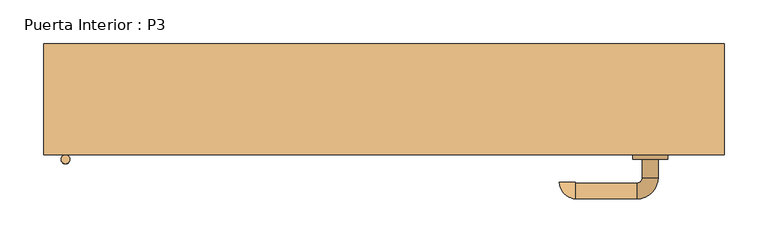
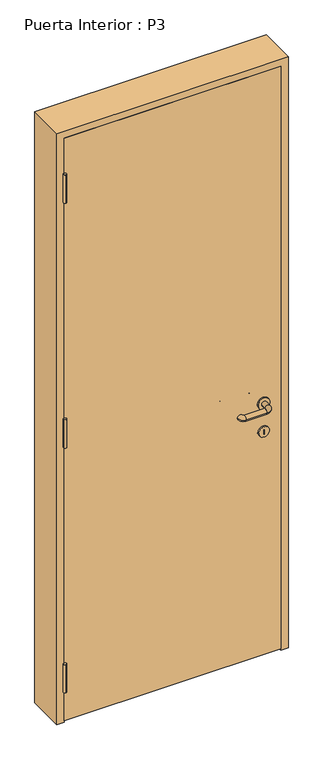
"""IFC4 building model written with IfcOpenShell, lengths in millimetres: door geometry, Puerta Interior : P3."""

from ifc_helpers import new_model, si_unit, point, frame, frame_2d, origin, place, context, project, spatial, polyline, circle_curve, ellipse_curve, trimmed, segment, composite_curve, outline, extrude, faceted_brep, source, transform, mapped, element, save
from ifc_brep_helpers import plane_surface, cylinder_surface, revolved_surface, advanced_brep


def puerta_interior_p3_a5072a38(model_context):
    return source(origin(), model_context, "Body", "SolidModel", [
        extrude(outline(composite_curve([segment(trimmed(circle_curve(frame_2d((900.0, 305.0)), 20.0), [point((900.0, 325.0))], [point((900.0, 285.0))], False, "CARTESIAN"), True, "CONTINUOUS"), segment(trimmed(circle_curve(frame_2d((900.0, 305.0)), 20.0), [point((900.0, 285.0))], [point((900.0, 325.0))], False, "CARTESIAN"), True, "CONTINUOUS")], self_intersect=False)), frame((0.0, -23.75, 0.0), z_axis=(0.0, 1.0, 0.0), x_axis=(0.0, 0.0, 1.0)), (0.0, 0.0, 1.0), 5.0),
        advanced_brep(
        [(296.0, -18.75, 900.0), (314.0, -18.75, 900.0), (314.0, 2.25, 900.0), (296.0, 2.25, 900.0), (290.0, 26.25, 900.0), (290.0, 8.25, 900.0), (219.797959, 26.25, 900.0), (219.797959, 8.25, 900.0), (218.797959, 7.25, 900.0), (200.797959, 7.25, 900.0)],
        [
            (0, 1, circle_curve(frame((305.0, -18.75, 900.0), z_axis=(0.0, -1.0, 0.0), x_axis=(1.0, 0.0, 0.0)), 9.0)),
            (1, 0, circle_curve(frame((305.0, -18.75, 900.0), z_axis=(0.0, -1.0, 0.0), x_axis=(1.0, 0.0, 0.0)), 9.0)),
            (1, 2),
            (2, 3, circle_curve(frame((305.0, 2.25, 900.0), z_axis=(0.0, -1.0, 0.0), x_axis=(1.0, 0.0, 0.0)), 9.0)),
            (3, 0),
            (3, 2, circle_curve(frame((305.0, 2.25, 900.0), z_axis=(0.0, -1.0, 0.0), x_axis=(1.0, 0.0, 0.0)), 9.0)),
            (4, 5, circle_curve(frame((290.0, 17.25, 900.0), z_axis=(1.0, 0.0, 0.0), x_axis=(0.0, 1.0, 0.0)), 9.0)),
            (5, 3, circle_curve(frame((290.0, 2.25, 900.0), z_axis=(0.0, 0.0, -1.0), x_axis=(1.0, 0.0, 0.0)), 6.0)),
            (2, 4, circle_curve(frame((290.0, 2.25, 900.0), z_axis=(0.0, 0.0, 1.0), x_axis=(1.0, 0.0, 0.0)), 24.0)),
            (5, 4, circle_curve(frame((290.0, 17.25, 900.0), z_axis=(1.0, 0.0, 0.0), x_axis=(0.0, 1.0, 0.0)), 9.0)),
            (4, 6),
            (6, 7, circle_curve(frame((219.797959, 17.25, 900.0), z_axis=(1.0, 0.0, 0.0), x_axis=(0.0, 1.0, 0.0)), 9.0)),
            (7, 5),
            (7, 6, circle_curve(frame((219.797959, 17.25, 900.0), z_axis=(1.0, 0.0, 0.0), x_axis=(0.0, 1.0, 0.0)), 9.0)),
            (8, 9, circle_curve(frame((209.797959, 7.25, 900.0), z_axis=(0.0, -1.0, 0.0), x_axis=(-1.0, 0.0, 0.0)), 9.0)),
            (9, 8, circle_curve(frame((209.797959, 7.25, 900.0), z_axis=(0.0, -1.0, 0.0), x_axis=(-1.0, 0.0, 0.0)), 9.0)),
            (8, 7, circle_curve(frame((219.797959, 7.25, 900.0), z_axis=(0.0, 0.0, -1.0), x_axis=(0.0, 1.0, 0.0)), 1.0)),
            (6, 9, circle_curve(frame((219.797959, 7.25, 900.0), z_axis=(0.0, 0.0, 1.0), x_axis=(0.0, 1.0, 0.0)), 19.0)),
        ],
        [
            plane_surface(frame((305.0, -18.75, 900.0), z_axis=(0.0, -1.0, 0.0), x_axis=(0.0, 0.0, 1.0))),
            cylinder_surface(frame((305.0, -18.75, 900.0), z_axis=(0.0, -1.0, 0.0), x_axis=(1.0, 0.0, 0.0)), 9.0),
            revolved_surface(trimmed(ellipse_curve(frame((305.0, 2.25, 900.0), z_axis=(0.0, 1.0, 0.0), x_axis=(1.0, 0.0, 0.0)), 9.0, 9.0), [point((296.0, 2.25, 900.0))], [point((314.0, 2.25, 900.0))], True, "CARTESIAN"), (290.0, 2.25, 900.0), (0.0, 0.0, -1.0)),
            revolved_surface(trimmed(ellipse_curve(frame((305.0, 2.25, 900.0), z_axis=(0.0, 1.0, 0.0), x_axis=(1.0, 0.0, 0.0)), 9.0, 9.0), [point((314.0, 2.25, 900.0))], [point((296.0, 2.25, 900.0))], True, "CARTESIAN"), (290.0, 2.25, 900.0), (0.0, 0.0, -1.0)),
            cylinder_surface(frame((290.0, 17.25, 900.0), z_axis=(1.0, 0.0, 0.0), x_axis=(0.0, 1.0, 0.0)), 9.0),
            plane_surface(frame((209.797959, 7.25, 900.0), z_axis=(0.0, -1.0, 0.0), x_axis=(0.0, 0.0, 1.0))),
            revolved_surface(trimmed(ellipse_curve(frame((219.797959, 17.25, 900.0), z_axis=(-1.0, 0.0, 0.0), x_axis=(0.0, 1.0, 0.0)), 9.0, 9.0), [point((219.797959, 8.25, 900.0))], [point((219.797959, 26.25, 900.0))], True, "CARTESIAN"), (219.797959, 7.25, 900.0), (0.0, 0.0, -1.0)),
            revolved_surface(trimmed(ellipse_curve(frame((219.797959, 17.25, 900.0), z_axis=(-1.0, 0.0, 0.0), x_axis=(0.0, 1.0, 0.0)), 9.0, 9.0), [point((219.797959, 26.25, 900.0))], [point((219.797959, 8.25, 900.0))], True, "CARTESIAN"), (219.797959, 7.25, 900.0), (0.0, 0.0, -1.0)),
        ],
        [
            (0, [[1, 2]]),
            (1, [[3, 4, 5, -2]]),
            (1, [[-5, 6, -3, -1]]),
            (2, [[7, 8, -4, 9]]),
            (3, [[10, -9, -6, -8]]),
            (4, [[11, 12, 13, -7]]),
            (4, [[-13, 14, -11, -10]]),
            (5, [[15, 16]]),
            (6, [[-15, 17, -12, 18]]),
            (7, [[-16, -18, -14, -17]]),
        ],
    ),
        extrude(outline(composite_curve([segment(trimmed(circle_curve(frame_2d((900.0, 305.0)), 20.0), [point((900.0, 325.0))], [point((900.0, 285.0))], False, "CARTESIAN"), True, "CONTINUOUS"), segment(trimmed(circle_curve(frame_2d((900.0, 305.0)), 20.0), [point((900.0, 285.0))], [point((900.0, 325.0))], False, "CARTESIAN"), True, "CONTINUOUS")], self_intersect=False)), frame((0.0, -68.75, 0.0), z_axis=(0.0, 1.0, 0.0), x_axis=(0.0, 0.0, 1.0)), (0.0, 0.0, 1.0), 5.0),
        advanced_brep(
        [(296.0, -68.75, 900.0), (314.0, -68.75, 900.0), (296.0, -89.75, 900.0), (314.0, -89.75, 900.0), (290.0, -113.75, 900.0), (290.0, -95.75, 900.0), (219.797959, -95.75, 900.0), (219.797959, -113.75, 900.0), (218.797959, -94.75, 900.0), (200.797959, -94.75, 900.0)],
        [
            (0, 1, circle_curve(frame((305.0, -68.75, 900.0), z_axis=(0.0, 1.0, 0.0), x_axis=(1.0, 0.0, 0.0)), 9.0)),
            (1, 0, circle_curve(frame((305.0, -68.75, 900.0), z_axis=(0.0, 1.0, 0.0), x_axis=(1.0, 0.0, 0.0)), 9.0)),
            (0, 2),
            (2, 3, circle_curve(frame((305.0, -89.75, 900.0), z_axis=(0.0, 1.0, 0.0), x_axis=(1.0, 0.0, 0.0)), 9.0)),
            (3, 1),
            (3, 2, circle_curve(frame((305.0, -89.75, 900.0), z_axis=(0.0, 1.0, 0.0), x_axis=(1.0, 0.0, 0.0)), 9.0)),
            (4, 3, circle_curve(frame((290.0, -89.75, 900.0), z_axis=(0.0, 0.0, 1.0), x_axis=(1.0, 0.0, 0.0)), 24.0)),
            (2, 5, circle_curve(frame((290.0, -89.75, 900.0), z_axis=(0.0, 0.0, -1.0), x_axis=(1.0, 0.0, 0.0)), 6.0)),
            (5, 4, circle_curve(frame((290.0, -104.75, 900.0), z_axis=(1.0, 0.0, 0.0), x_axis=(0.0, -1.0, 0.0)), 9.0)),
            (4, 5, circle_curve(frame((290.0, -104.75, 900.0), z_axis=(1.0, 0.0, 0.0), x_axis=(0.0, -1.0, 0.0)), 9.0)),
            (5, 6),
            (6, 7, circle_curve(frame((219.797959, -104.75, 900.0), z_axis=(1.0, 0.0, 0.0), x_axis=(0.0, -1.0, 0.0)), 9.0)),
            (7, 4),
            (7, 6, circle_curve(frame((219.797959, -104.75, 900.0), z_axis=(1.0, 0.0, 0.0), x_axis=(0.0, -1.0, 0.0)), 9.0)),
            (8, 9, circle_curve(frame((209.797959, -94.75, 900.0), z_axis=(0.0, 1.0, 0.0), x_axis=(-1.0, 0.0, 0.0)), 9.0)),
            (9, 8, circle_curve(frame((209.797959, -94.75, 900.0), z_axis=(0.0, 1.0, 0.0), x_axis=(-1.0, 0.0, 0.0)), 9.0)),
            (9, 7, circle_curve(frame((219.797959, -94.75, 900.0), z_axis=(0.0, 0.0, 1.0), x_axis=(0.0, -1.0, 0.0)), 19.0)),
            (6, 8, circle_curve(frame((219.797959, -94.75, 900.0), z_axis=(0.0, 0.0, -1.0), x_axis=(0.0, -1.0, 0.0)), 1.0)),
        ],
        [
            plane_surface(frame((305.0, -68.75, 900.0), z_axis=(0.0, 1.0, 0.0), x_axis=(0.0, 0.0, 1.0))),
            cylinder_surface(frame((305.0, -68.75, 900.0), z_axis=(0.0, 1.0, 0.0), x_axis=(1.0, 0.0, 0.0)), 9.0),
            revolved_surface(trimmed(ellipse_curve(frame((305.0, -89.75, 900.0), z_axis=(0.0, 1.0, 0.0), x_axis=(1.0, 0.0, 0.0)), 9.0, 9.0), [point((296.0, -89.75, 900.0))], [point((314.0, -89.75, 900.0))], True, "CARTESIAN"), (290.0, -89.75, 900.0), (0.0, 0.0, -1.0)),
            revolved_surface(trimmed(ellipse_curve(frame((305.0, -89.75, 900.0), z_axis=(0.0, 1.0, 0.0), x_axis=(1.0, 0.0, 0.0)), 9.0, 9.0), [point((314.0, -89.75, 900.0))], [point((296.0, -89.75, 900.0))], True, "CARTESIAN"), (290.0, -89.75, 900.0), (0.0, 0.0, -1.0)),
            cylinder_surface(frame((290.0, -104.75, 900.0), z_axis=(1.0, 0.0, 0.0), x_axis=(0.0, -1.0, 0.0)), 9.0),
            plane_surface(frame((209.797959, -94.75, 900.0), z_axis=(0.0, 1.0, 0.0), x_axis=(0.0, 0.0, 1.0))),
            revolved_surface(trimmed(ellipse_curve(frame((219.797959, -104.75, 900.0), z_axis=(1.0, 0.0, 0.0), x_axis=(0.0, -1.0, 0.0)), 9.0, 9.0), [point((219.797959, -95.75, 900.0))], [point((219.797959, -113.75, 900.0))], True, "CARTESIAN"), (219.797959, -94.75, 900.0), (0.0, 0.0, -1.0)),
            revolved_surface(trimmed(ellipse_curve(frame((219.797959, -104.75, 900.0), z_axis=(1.0, 0.0, 0.0), x_axis=(0.0, -1.0, 0.0)), 9.0, 9.0), [point((219.797959, -113.75, 900.0))], [point((219.797959, -95.75, 900.0))], True, "CARTESIAN"), (219.797959, -94.75, 900.0), (0.0, 0.0, -1.0)),
        ],
        [
            (0, [[1, 2]]),
            (1, [[-1, 3, 4, 5]]),
            (1, [[-2, -5, 6, -3]]),
            (2, [[7, -4, 8, 9]]),
            (3, [[-8, -6, -7, 10]]),
            (4, [[-9, 11, 12, 13]]),
            (4, [[-10, -13, 14, -11]]),
            (5, [[15, 16]]),
            (6, [[17, -12, 18, -16]]),
            (7, [[-18, -14, -17, -15]]),
        ],
    ),
        extrude(outline(composite_curve([segment(trimmed(circle_curve(frame_2d((800.0, 305.0)), 18.0), [point((800.0, 323.0))], [point((800.0, 287.0))], False, "CARTESIAN"), True, "CONTINUOUS"), segment(trimmed(circle_curve(frame_2d((800.0, 305.0)), 18.0), [point((800.0, 287.0))], [point((800.0, 323.0))], False, "CARTESIAN"), True, "CONTINUOUS")], self_intersect=False), holes=[polyline([(791.5189471, 305.9764977), (791.5189471, 304.0063037), (807.7059713, 304.0063037), (807.7059713, 305.9764977), (791.5189471, 305.9764977)])]), frame((0.0, -68.75, 0.0), z_axis=(0.0, 1.0, 0.0), x_axis=(0.0, 0.0, 1.0)), (0.0, 0.0, 1.0), 50.0),
        extrude(outline(polyline([(-365.0, -63.75), (-365.0, -23.75), (365.0, -23.75), (365.0, -63.75), (-365.0, -63.75)])), frame((0.0, 0.0, 5.0), z_axis=(0.0, 0.0, 1.0), x_axis=(1.0, 0.0, 0.0)), (0.0, 0.0, 1.0), 2070.0),
        faceted_brep([(365.0, -23.75, 0.0), (350.0, -23.75, 0.0), (350.0, -3.75, 0.0), (365.0, -3.75, 0.0), (365.0, 63.75, 0.0), (390.0, 63.75, 0.0), (390.0, -63.75, 0.0), (365.0, -63.75, 0.0), (365.0, -63.75, 2075.0), (365.0, -23.75, 2075.0), (390.0, -63.75, 2100.0), (-390.0, -63.75, 2100.0), (-390.0, -63.75, 0.0), (-365.0, -63.75, 0.0), (-365.0, -63.75, 2075.0), (390.0, 63.75, 2100.0), (365.0, 63.75, 2075.0), (-365.0, 63.75, 2075.0), (-365.0, 63.75, 0.0), (-390.0, 63.75, 0.0), (-390.0, 63.75, 2100.0), (365.0, -3.75, 2075.0), (350.0, -3.75, 2060.0), (-350.0, -3.75, 2060.0), (-350.0, -3.75, 0.0), (-365.0, -3.75, 0.0), (-365.0, -3.75, 2075.0), (350.0, -23.75, 2060.0), (-365.0, -23.75, 2075.0), (-365.0, -23.75, 0.0), (-350.0, -23.75, 0.0), (-350.0, -23.75, 2060.0)], [[[0, 1, 2, 3, 4, 5, 6, 7]], [[7, 8, 9, 0]], [[6, 10, 11, 12, 13, 14, 8, 7]], [[5, 15, 10, 6]], [[4, 16, 17, 18, 19, 20, 15, 5]], [[3, 21, 16, 4]], [[2, 22, 23, 24, 25, 26, 21, 3]], [[1, 27, 22, 2]], [[0, 9, 28, 29, 30, 31, 27, 1]], [[14, 13, 29, 28]], [[29, 13, 12, 19, 18, 25, 24, 30]], [[20, 19, 12, 11]], [[26, 25, 18, 17]], [[31, 30, 24, 23]], [[8, 14, 28, 9]], [[15, 20, 11, 10]], [[21, 26, 17, 16]], [[27, 31, 23, 22]]]),
        extrude(outline(composite_curve([segment(trimmed(circle_curve(frame_2d((-365.0, -68.75)), 5.0), [point((-365.0, -63.75))], [point((-365.0, -73.75))], False, "CARTESIAN"), True, "CONTINUOUS"), segment(trimmed(circle_curve(frame_2d((-365.0, -68.75)), 5.0), [point((-365.0, -73.75))], [point((-365.0, -63.75))], False, "CARTESIAN"), True, "CONTINUOUS")], self_intersect=False)), frame((0.0, 0.0, 1850.0), z_axis=(0.0, 0.0, 1.0), x_axis=(1.0, 0.0, 0.0)), (0.0, 0.0, 1.0), 100.0),
        extrude(outline(composite_curve([segment(trimmed(circle_curve(frame_2d((-365.0, -68.75)), 5.0), [point((-370.0, -68.75))], [point((-360.0, -68.75))], False, "CARTESIAN"), True, "CONTINUOUS"), segment(trimmed(circle_curve(frame_2d((-365.0, -68.75)), 5.0), [point((-360.0, -68.75))], [point((-370.0, -68.75))], False, "CARTESIAN"), True, "CONTINUOUS")], self_intersect=False)), frame((0.0, 0.0, 980.0), z_axis=(0.0, 0.0, 1.0), x_axis=(1.0, 0.0, 0.0)), (0.0, 0.0, 1.0), 100.0),
        extrude(outline(composite_curve([segment(trimmed(circle_curve(frame_2d((-365.0, -68.75)), 5.0), [point((-365.0, -63.75))], [point((-365.0, -73.75))], False, "CARTESIAN"), True, "CONTINUOUS"), segment(trimmed(circle_curve(frame_2d((-365.0, -68.75)), 5.0), [point((-365.0, -73.75))], [point((-365.0, -63.75))], False, "CARTESIAN"), True, "CONTINUOUS")], self_intersect=False)), frame((0.0, 0.0, 110.0), z_axis=(0.0, 0.0, 1.0), x_axis=(1.0, 0.0, 0.0)), (0.0, 0.0, 1.0), 100.0),
    ])


if __name__ == "__main__":
    model = new_model("IFC4")
    model_context = context("Model", 3, world=origin())
    ifc_project = project(units=[si_unit("LENGTHUNIT", "METRE", prefix="MILLI")], contexts=[model_context])
    site = spatial("IfcSite", under=ifc_project)
    building = spatial("IfcBuilding", under=site)
    placement = place(None, origin())
    puerta_interior_p3_shape = puerta_interior_p3_a5072a38(model_context)
    element("IfcDoor", 1, ObjectType="Puerta Interior : P3", at=placement, inside=building, context=model_context, shape_type="MappedRepresentation", body=[
        mapped(puerta_interior_p3_shape, transform((0.0, 0.0, 0.0), x_axis=(1.0, 0.0, 0.0), y_axis=(0.0, 1.0, 0.0), z_axis=(0.0, 0.0, 1.0))),
    ])
    save(model, "model.ifc")
